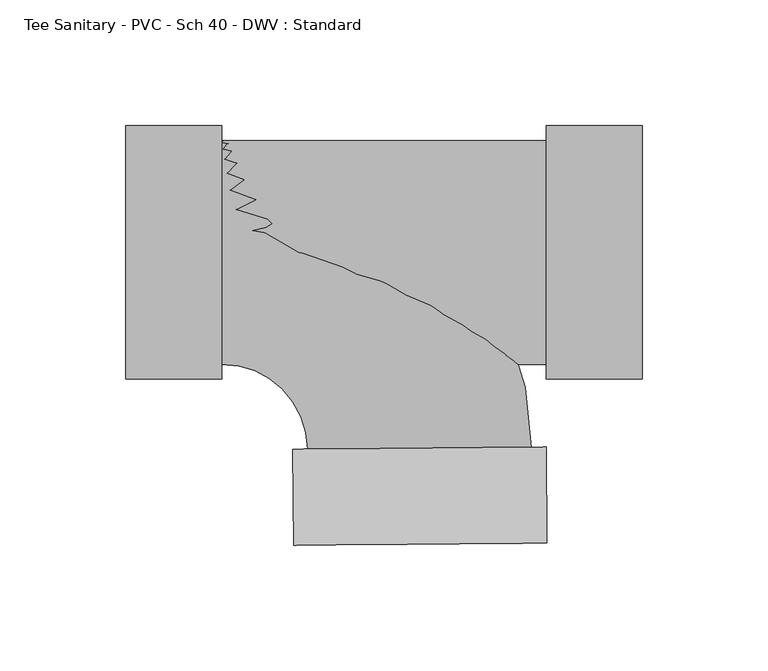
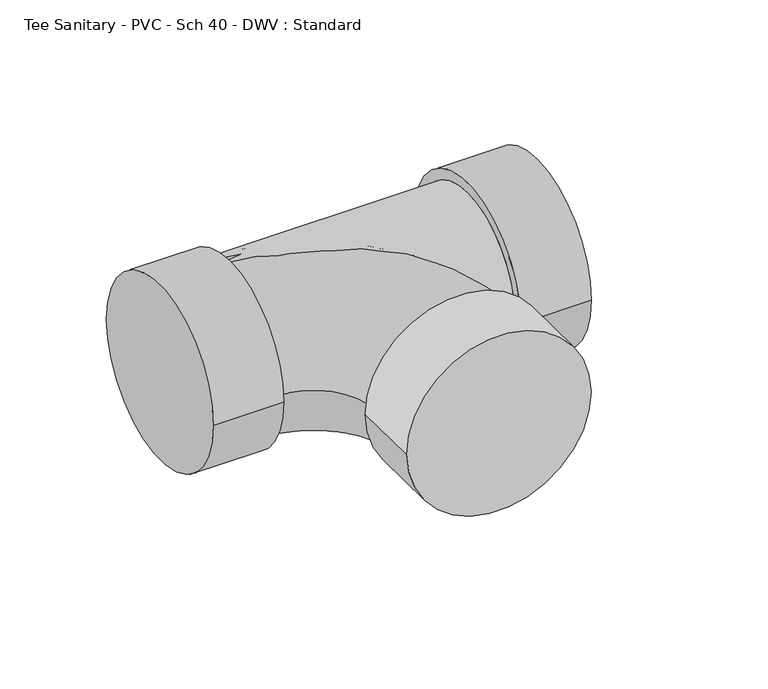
"""IFC4 building model written with IfcOpenShell, lengths in millimetres: pipe fitting geometry, Tee Sanitary - PVC - Sch 40 - DWV : Standard."""

from ifc_helpers import new_model, si_unit, point, frame, origin, place, context, project, spatial, circle_curve, ellipse_curve, trimmed, source, transform, mapped, element, save
from ifc_brep_helpers import plane_surface, cylinder_surface, revolved_surface, advanced_brep


def tee_sanitary_pvc_sch_40_dwv_standard_fbf7a947(model_context):
    return source(origin(), model_context, "Body", "AdvancedBrep", [
        advanced_brep(
        [(-77.8002, -44.45, 0.0), (-77.8002, 44.45, 0.0), (-43.7905963, -78.1732518, 0.0), (45.1062259, -77.4215862, 0.0), (51.2447604, -115.4710439, 0.0), (-49.284846, -116.3210703, 0.0), (50.922618, -77.3724058, 0.0), (-49.6069884, -78.2224322, 0.0)],
        [
            (0, 1, circle_curve(frame((-77.8002, 0.0, 0.0), z_axis=(-1.0, 0.0, 0.0), x_axis=(0.0, 1.0, 0.0)), 44.45)),
            (1, 0, circle_curve(frame((-77.8002, 0.0, 0.0), z_axis=(-1.0, 0.0, 0.0), x_axis=(0.0, 1.0, 0.0)), 44.45)),
            (0, 2, circle_curve(frame((-77.8002, -78.4608194, 0.0), z_axis=(0.0, 0.0, -1.0), x_axis=(0.0, 1.0, 0.0)), 34.0108194)),
            (2, 3, circle_curve(frame((0.6578148, -77.797419, 0.0), z_axis=(-0.008455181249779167, 0.9999642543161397, 0.0), x_axis=(0.9999642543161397, 0.008455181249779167, 0.0)), 44.45)),
            (3, 1, circle_curve(frame((-77.8002, -78.4608194, 0.0), z_axis=(0.0, 0.0, 1.0), x_axis=(0.0, 1.0, 0.0)), 122.9108194)),
            (3, 2, circle_curve(frame((0.6578148, -77.797419, 0.0), z_axis=(-0.008455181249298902, 0.9999642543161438, 0.0), x_axis=(0.9999642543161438, 0.008455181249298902, 0.0)), 44.45)),
            (4, 5, circle_curve(frame((0.9799572, -115.8960571, 0.0), z_axis=(0.00845518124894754, -0.9999642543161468, 0.0), x_axis=(-0.9999642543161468, -0.00845518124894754, 0.0)), 50.2666)),
            (5, 4, circle_curve(frame((0.9799572, -115.8960571, 0.0), z_axis=(0.00845518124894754, -0.9999642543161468, 0.0), x_axis=(-0.9999642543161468, -0.00845518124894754, 0.0)), 50.2666)),
            (6, 7, circle_curve(frame((0.6578148, -77.797419, 0.0), z_axis=(-0.00845518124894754, 0.9999642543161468, 0.0), x_axis=(-0.9999642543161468, -0.00845518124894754, 0.0)), 50.2666)),
            (7, 6, circle_curve(frame((0.6578148, -77.797419, 0.0), z_axis=(-0.00845518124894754, 0.9999642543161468, 0.0), x_axis=(-0.9999642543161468, -0.00845518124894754, 0.0)), 50.2666)),
            (4, 6),
            (7, 5),
        ],
        [
            plane_surface(frame((-77.8002, 0.0, 0.0), z_axis=(-1.0, 0.0, 0.0), x_axis=(0.0, 0.0, 1.0))),
            revolved_surface(trimmed(ellipse_curve(frame((-77.8002, 0.0, 0.0), z_axis=(-1.0, 0.0, 0.0), x_axis=(0.0, 1.0, 0.0)), 44.45, 44.45), [point((-77.8002, -44.45, 0.0))], [point((-77.8002, 44.45, 0.0))], True, "CARTESIAN"), (-77.8002, -78.4608194, 0.0), (0.0, 0.0, -1.0)),
            revolved_surface(trimmed(ellipse_curve(frame((-77.8002, 0.0, 0.0), z_axis=(-1.0, 0.0, 0.0), x_axis=(0.0, 1.0, 0.0)), 44.45, 44.45), [point((-77.8002, 44.45, 0.0))], [point((-77.8002, -44.45, 0.0))], True, "CARTESIAN"), (-77.8002, -78.4608194, 0.0), (0.0, 0.0, -1.0)),
            plane_surface(frame((0.9799572, -115.8960571, 0.0), z_axis=(0.008455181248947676, -0.9999642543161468, 0.0), x_axis=(0.0, 0.0, 1.0))),
            plane_surface(frame((0.6578148, -77.797419, 0.0), z_axis=(-0.00845518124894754, 0.9999642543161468, 0.0), x_axis=(0.0, 0.0, 1.0))),
            cylinder_surface(frame((0.9799572, -115.8960571, 0.0), z_axis=(0.00845518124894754, -0.9999642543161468, 0.0), x_axis=(-0.9999642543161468, -0.00845518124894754, 0.0)), 50.2666),
        ],
        [
            (0, [[1, 2]]),
            (1, [[-1, 3, 4, 5]]),
            (2, [[-2, -5, 6, -3]]),
            (3, [[7, 8]]),
            (4, [[9, 10], [-4, -6]]),
            (5, [[-7, 11, -10, 12]]),
            (5, [[-8, -12, -9, -11]]),
        ],
    ),
        advanced_brep(
        [(-77.8002, -44.45, 0.0), (50.922618, -44.45, 0.0), (50.922618, 44.45, 0.0), (-77.8002, 44.45, 0.0), (50.922618, -50.2666, 0.0), (50.922618, 50.2666, 0.0), (89.022618, -50.2666, 0.0), (89.022618, 50.2666, 0.0), (-115.9002, -50.2666, 0.0), (-115.9002, 50.2666, 0.0), (-77.8002, -50.2666, 0.0), (-77.8002, 50.2666, 0.0)],
        [
            (0, 1),
            (1, 2, circle_curve(frame((50.922618, 0.0, 0.0), z_axis=(-1.0, 0.0, 0.0), x_axis=(0.0, 1.0, 0.0)), 44.45)),
            (2, 3),
            (3, 0, circle_curve(frame((-77.8002, 0.0, 0.0), z_axis=(1.0, 0.0, 0.0), x_axis=(0.0, 1.0, 0.0)), 44.45)),
            (0, 3, circle_curve(frame((-77.8002, 0.0, 0.0), z_axis=(1.0, 0.0, 0.0), x_axis=(0.0, 1.0, 0.0)), 44.45)),
            (2, 1, circle_curve(frame((50.922618, 0.0, 0.0), z_axis=(-1.0, 0.0, 0.0), x_axis=(0.0, 1.0, 0.0)), 44.45)),
            (4, 5, circle_curve(frame((50.922618, 0.0, 0.0), z_axis=(-1.0, 0.0, 0.0), x_axis=(0.0, 1.0, 0.0)), 50.2666)),
            (5, 4, circle_curve(frame((50.922618, 0.0, 0.0), z_axis=(-1.0, 0.0, 0.0), x_axis=(0.0, 1.0, 0.0)), 50.2666)),
            (6, 7, circle_curve(frame((89.022618, 0.0, 0.0), z_axis=(1.0, 0.0, 0.0), x_axis=(0.0, 1.0, 0.0)), 50.2666)),
            (7, 6, circle_curve(frame((89.022618, 0.0, 0.0), z_axis=(1.0, 0.0, 0.0), x_axis=(0.0, 1.0, 0.0)), 50.2666)),
            (4, 6),
            (7, 5),
            (8, 9, circle_curve(frame((-115.9002, 0.0, 0.0), z_axis=(-1.0, 0.0, 0.0), x_axis=(0.0, 1.0, 0.0)), 50.2666)),
            (9, 8, circle_curve(frame((-115.9002, 0.0, 0.0), z_axis=(-1.0, 0.0, 0.0), x_axis=(0.0, 1.0, 0.0)), 50.2666)),
            (10, 11, circle_curve(frame((-77.8002, 0.0, 0.0), z_axis=(1.0, 0.0, 0.0), x_axis=(0.0, 1.0, 0.0)), 50.2666)),
            (11, 10, circle_curve(frame((-77.8002, 0.0, 0.0), z_axis=(1.0, 0.0, 0.0), x_axis=(0.0, 1.0, 0.0)), 50.2666)),
            (8, 10),
            (11, 9),
        ],
        [
            cylinder_surface(frame((-77.8002, 0.0, 0.0), z_axis=(-1.0, 0.0, 0.0), x_axis=(0.0, 1.0, 0.0)), 44.45),
            plane_surface(frame((50.922618, 0.0, 0.0), z_axis=(-1.0, 0.0, 0.0), x_axis=(0.0, 0.0, 1.0))),
            plane_surface(frame((89.022618, 0.0, 0.0), z_axis=(1.0, 0.0, 0.0), x_axis=(0.0, 0.0, 1.0))),
            cylinder_surface(frame((50.922618, 0.0, 0.0), z_axis=(-1.0, 0.0, 0.0), x_axis=(0.0, 1.0, 0.0)), 50.2666),
            plane_surface(frame((-115.9002, 0.0, 0.0), z_axis=(-1.0, 0.0, 0.0), x_axis=(0.0, 0.0, 1.0))),
            plane_surface(frame((-77.8002, 0.0, 0.0), z_axis=(1.0, 0.0, 0.0), x_axis=(0.0, 0.0, 1.0))),
            cylinder_surface(frame((-115.9002, 0.0, 0.0), z_axis=(-1.0, 0.0, 0.0), x_axis=(0.0, 1.0, 0.0)), 50.2666),
        ],
        [
            (0, [[1, 2, 3, 4]]),
            (0, [[-1, 5, -3, 6]]),
            (1, [[7, 8], [-2, -6]]),
            (2, [[9, 10]]),
            (3, [[-7, 11, -10, 12]]),
            (3, [[-8, -12, -9, -11]]),
            (4, [[13, 14]]),
            (5, [[15, 16], [-4, -5]]),
            (6, [[-13, 17, -16, 18]]),
            (6, [[-14, -18, -15, -17]]),
        ],
    ),
    ])


if __name__ == "__main__":
    model = new_model("IFC4")
    model_context = context("Model", 3, world=origin())
    ifc_project = project(units=[si_unit("LENGTHUNIT", "METRE", prefix="MILLI")], contexts=[model_context])
    site = spatial("IfcSite", under=ifc_project)
    building = spatial("IfcBuilding", under=site)
    placement = place(None, origin())
    tee_sanitary_pvc_sch_40_dwv_standard_shape = tee_sanitary_pvc_sch_40_dwv_standard_fbf7a947(model_context)
    element("IfcPipeFitting", 1, ObjectType="Tee Sanitary - PVC - Sch 40 - DWV : Standard", at=placement, inside=building, context=model_context, shape_type="MappedRepresentation", body=[
        mapped(tee_sanitary_pvc_sch_40_dwv_standard_shape, transform((0.0, 0.0, 0.0), x_axis=(1.0, 0.0, 0.0), y_axis=(0.0, 1.0, 0.0), z_axis=(0.0, 0.0, 1.0))),
    ])
    save(model, "model.ifc")
